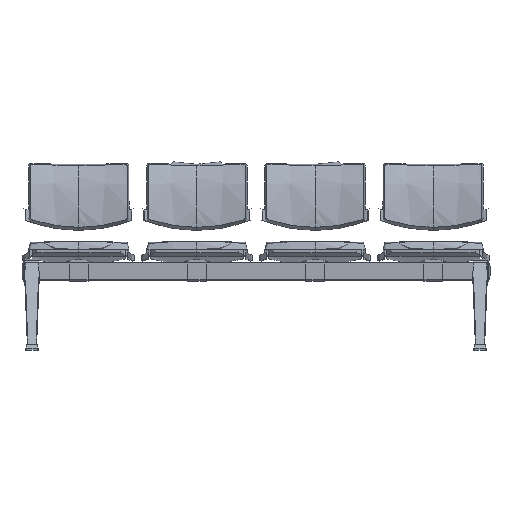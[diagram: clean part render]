
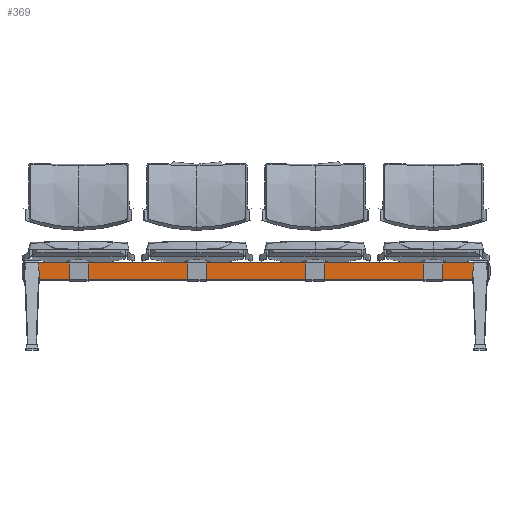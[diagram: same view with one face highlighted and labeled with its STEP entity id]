
A CAD part, front view. The second image highlights one B-rep face of the part: STEP entity #369.
In plain terms, the highlighted planar face has unit normal (0, -1, 0).
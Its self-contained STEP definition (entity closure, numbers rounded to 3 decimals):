
#369=ADVANCED_FACE('',(#933),#7132,.T.);
#933=FACE_OUTER_BOUND('',#1497,.T.);
#1497=EDGE_LOOP('',(#2687,#2688,#2689,#2690));
#2687=ORIENTED_EDGE('',*,*,#4819,.F.);
#2688=ORIENTED_EDGE('',*,*,#4817,.T.);
#2689=ORIENTED_EDGE('',*,*,#4821,.F.);
#2690=ORIENTED_EDGE('',*,*,#4820,.F.);
#4817=EDGE_CURVE('',#6203,#6204,#7875,.T.);
#4819=EDGE_CURVE('',#6203,#6205,#7876,.T.);
#4820=EDGE_CURVE('',#6205,#6206,#7877,.T.);
#4821=EDGE_CURVE('',#6206,#6204,#7878,.T.);
#6203=VERTEX_POINT('',#11691);
#6204=VERTEX_POINT('',#11692);
#6205=VERTEX_POINT('',#11693);
#6206=VERTEX_POINT('',#11694);
#7132=PLANE('',#8633);
#7875=B_SPLINE_CURVE_WITH_KNOTS('',1,(#11717,#11718),.UNSPECIFIED.,.F.,
 .F.,(2,2),(0.,1000.),.UNSPECIFIED.);
#7876=B_SPLINE_CURVE_WITH_KNOTS('',1,(#11722,#11723),.UNSPECIFIED.,.F.,
 .F.,(2,2),(717.85,791.85),.UNSPECIFIED.);
#7877=B_SPLINE_CURVE_WITH_KNOTS('',1,(#11724,#11725),.UNSPECIFIED.,.F.,
 .F.,(2,2),(0.,1000.),.UNSPECIFIED.);
#7878=B_SPLINE_CURVE_WITH_KNOTS('',1,(#11726,#11727),.UNSPECIFIED.,.F.,
 .F.,(2,2),(-791.85,-717.85),.UNSPECIFIED.);
#8633=AXIS2_PLACEMENT_3D('',#11666,#8910,$);
#8910=DIRECTION('',(0.,-1.,0.));
#11666=CARTESIAN_POINT('',(-1000.,-20.,303.));
#11691=CARTESIAN_POINT('',(-1000.,-20.,303.));
#11692=CARTESIAN_POINT('',(1000.,-20.,303.));
#11693=CARTESIAN_POINT('',(-1000.,-20.,377.));
#11694=CARTESIAN_POINT('',(1000.,-20.,377.));
#11717=CARTESIAN_POINT('',(-1000.,-20.,303.));
#11718=CARTESIAN_POINT('',(1000.,-20.,303.));
#11722=CARTESIAN_POINT('',(-1000.,-20.,303.));
#11723=CARTESIAN_POINT('',(-1000.,-20.,377.));
#11724=CARTESIAN_POINT('',(-1000.,-20.,377.));
#11725=CARTESIAN_POINT('',(1000.,-20.,377.));
#11726=CARTESIAN_POINT('',(1000.,-20.,377.));
#11727=CARTESIAN_POINT('',(1000.,-20.,303.));
